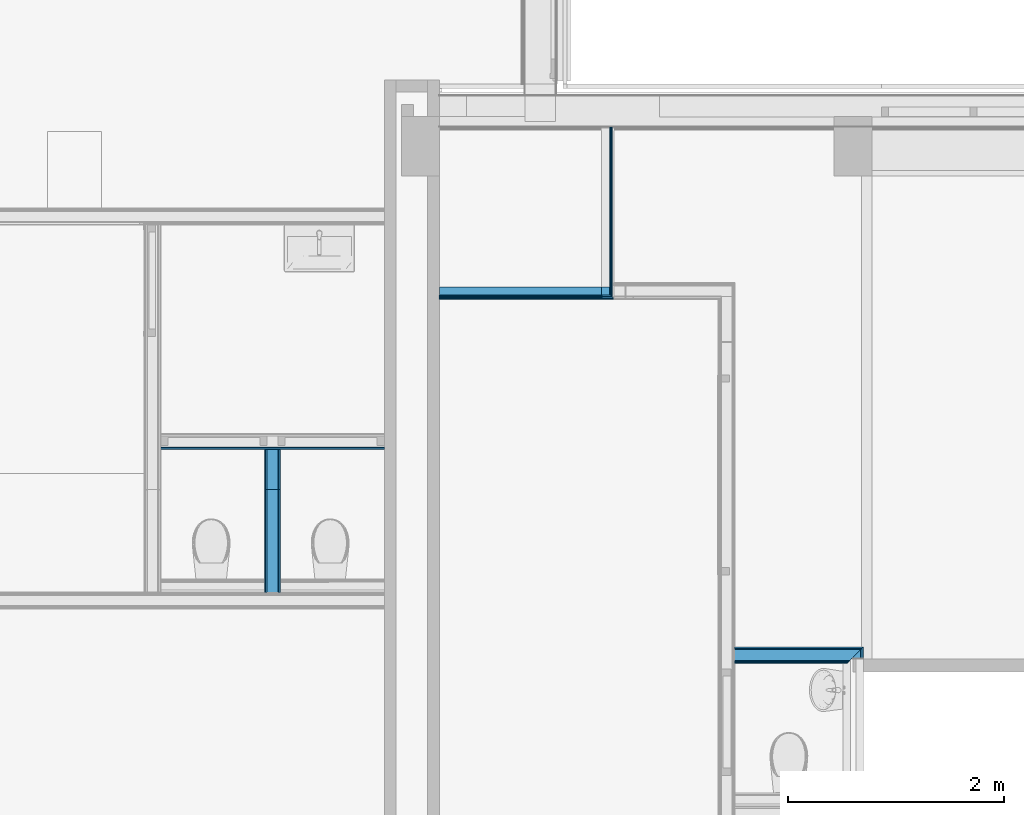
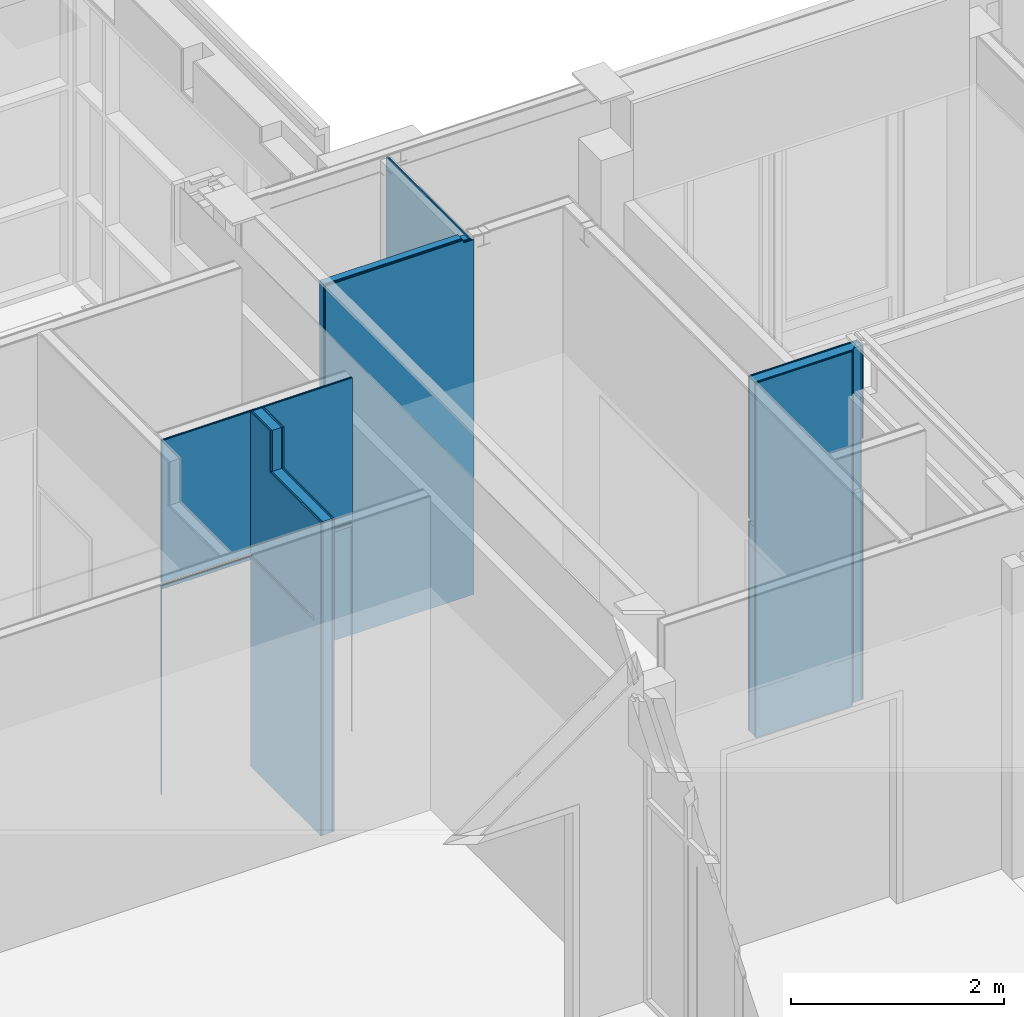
# One storey, part 50 of 109: 21 building element parts, 2 openings, 6 elements without a shape of their own.
"""IFC2X3 building model written with IfcOpenShell, lengths in millimetres."""

from ifc_helpers import new_model, entity, si_unit, converted_unit, derived_unit, money_unit, direction, frame, origin_with_axes, place, context, subcontext, project, spatial, faceted_brep, material, type_object, element, aggregate, save


model = new_model("IFC2X3")

# Units and contexts
model_context = context("Model", 3, precision=0.01, world=origin_with_axes(), true_north=direction((0.0, 1.0)))
body_context = subcontext(model_context, "Body", "Model", "MODEL_VIEW")
ifc_project = project(units=[si_unit("LENGTHUNIT", "METRE", prefix="MILLI"), si_unit("AREAUNIT", "SQUARE_METRE"), si_unit("VOLUMEUNIT", "CUBIC_METRE"), converted_unit("PLANEANGLEUNIT", "DEGREE", entity("IfcPlaneAngleMeasure", 0.0174532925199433), si_unit("PLANEANGLEUNIT", "RADIAN"), dimensions=[0, 0, 0, 0, 0, 0, 0]), money_unit("EUR"), converted_unit("TIMEUNIT", "Year", entity("IfcTimeMeasure", 31557600.0), si_unit("TIMEUNIT", "SECOND"), dimensions=[0, 0, 1, 0, 0, 0, 0]), si_unit("MASSUNIT", "GRAM", prefix="KILO"), si_unit("THERMODYNAMICTEMPERATUREUNIT", "DEGREE_CELSIUS"), si_unit("LUMINOUSINTENSITYUNIT", "LUMEN"), si_unit("ENERGYUNIT", "JOULE", prefix="MEGA"), derived_unit("THERMALCONDUCTANCEUNIT", [(si_unit("POWERUNIT", "WATT"), 1), (si_unit("LENGTHUNIT", "METRE"), -1), (si_unit("THERMODYNAMICTEMPERATUREUNIT", "KELVIN"), -1)]), derived_unit("SPECIFICHEATCAPACITYUNIT", [(si_unit("ENERGYUNIT", "JOULE"), 1), (si_unit("MASSUNIT", "GRAM", prefix="KILO"), -1), (si_unit("THERMODYNAMICTEMPERATUREUNIT", "KELVIN"), -1)]), derived_unit("MASSDENSITYUNIT", [(si_unit("MASSUNIT", "GRAM", prefix="KILO"), 1), (si_unit("VOLUMEUNIT", "CUBIC_METRE"), -1)])], contexts=[model_context])

# Site, building, storey
site_placement = place(None, origin_with_axes())
site = spatial("IfcSite", under=ifc_project, at=site_placement, Name="<site naam>", CompositionType="ELEMENT")
building_placement = place(site_placement, origin_with_axes())
building = spatial("IfcBuilding", under=site, at=building_placement, Name="<Naam gebouw>", CompositionType="ELEMENT")
storey_placement = place(building_placement, origin_with_axes())
storey = spatial("IfcBuildingStorey", under=building, at=storey_placement, Name="00 Begane grond", CompositionType="ELEMENT", Elevation=0.0)

# Wall, building element parts
wall_type_1 = type_object("IfcWallType", Name="MS-04 GF 138 V/100.3.A 113", PredefinedType="NOTDEFINED")
wall_1_placement = place(storey_placement, frame((12175.00000000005, 18423.09602261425, 0.0), z_axis=(0.0, 0.0, 1.0), x_axis=(1.0, 0.0, 0.0)))
wall_1 = element("IfcWall", 1, at=wall_1_placement, inside=storey, type_object=wall_type_1, Name="22_Binnenwand_MS-04")
ifc_material_1 = material(Name="gipsplaat")
building_element_part_1_placement = place(wall_1_placement, origin_with_axes())
building_element_part_1 = element("IfcBuildingElementPart", 2, at=building_element_part_1_placement, material=ifc_material_1, Name="gipsplaat", context=body_context, shape_type="Brep", body=[
    faceted_brep([(1587.5, -87.49999999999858, 4070.0), (1587.5, -74.99999999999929, 4070.0), (1500.0, -74.99999999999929, 4070.0), (1500.0, -87.49999999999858, 4070.0), (1587.5, -74.99999999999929, 0.0), (1587.5, -87.49999999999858, 0.0), (0.0, -74.99999999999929, 0.0), (0.0, -74.99999999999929, 4100.0), (1500.0, -74.99999999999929, 4100.000000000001), (1500.0, -87.49999999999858, 4100.000000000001), (0.0, -87.49999999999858, 4100.0), (0.0, -87.49999999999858, 0.0)], [[[0, 1, 2, 3]], [[4, 1, 0, 5]], [[1, 4, 6, 7, 8, 2]], [[3, 2, 8, 9]], [[5, 0, 3, 9, 10, 11]], [[4, 5, 11, 6]], [[10, 7, 6, 11]], [[10, 9, 8, 7]]]),
])
ifc_material_2 = material(Name="isolatie_steenwol LSW")
building_element_part_2_placement = place(wall_1_placement, origin_with_axes())
building_element_part_2 = element("IfcBuildingElementPart", 3, at=building_element_part_2_placement, material=ifc_material_2, Name="isolatie_steenwol LSW", context=body_context, shape_type="Brep", body=[
    faceted_brep([(1574.999999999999, -74.99999999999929, 4070.0), (1574.999999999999, 0.0, 4070.0), (1500.0, 0.0, 4070.0), (1500.0, -74.99999999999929, 4070.0), (1574.999999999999, 0.0, 0.0), (1574.999999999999, -74.99999999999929, 0.0), (0.0, 0.0, 0.0), (0.0, 0.0, 4100.0), (1500.0, 0.0, 4100.000000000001), (1500.0, -74.99999999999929, 4100.000000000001), (0.0, -74.99999999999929, 4100.0), (0.0, -74.99999999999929, 0.0)], [[[0, 1, 2, 3]], [[4, 1, 0, 5]], [[1, 4, 6, 7, 8, 2]], [[3, 2, 8, 9]], [[5, 0, 3, 9, 10, 11]], [[4, 5, 11, 6]], [[10, 7, 6, 11]], [[10, 9, 8, 7]]]),
])
building_element_part_3_placement = place(wall_1_placement, origin_with_axes())
building_element_part_3 = element("IfcBuildingElementPart", 4, at=building_element_part_3_placement, material=ifc_material_1, Name="gipsplaat", context=body_context, shape_type="Brep", body=[
    faceted_brep([(1600.0, -100.0000000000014, 4070.0), (1600.0, -87.49999999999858, 4070.0), (1500.0, -87.49999999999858, 4070.0), (1500.0, -100.0000000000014, 4070.0), (1600.0, -87.49999999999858, 0.0), (1600.0, -100.0000000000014, 0.0), (0.0, -87.49999999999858, 0.0), (0.0, -87.49999999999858, 4100.0), (1500.0, -87.49999999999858, 4100.000000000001), (1500.0, -99.99999999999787, 4100.000000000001), (0.0, -100.0000000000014, 4100.0), (0.0, -100.0000000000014, 0.0)], [[[0, 1, 2, 3]], [[4, 1, 0, 5]], [[1, 4, 6, 7, 8, 2]], [[3, 2, 8, 9]], [[5, 0, 3, 9, 10, 11]], [[4, 5, 11, 6]], [[10, 7, 6, 11]], [[10, 9, 8, 7]]]),
])
building_element_part_4_placement = place(wall_1_placement, origin_with_axes())
building_element_part_4 = element("IfcBuildingElementPart", 5, at=building_element_part_4_placement, material=ifc_material_1, Name="gipsplaat", context=body_context, shape_type="Brep", body=[
    faceted_brep([(1500.0, -99.99999999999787, 4100.000000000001), (1500.0, -99.99999999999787, 4070.0), (1612.500000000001, -99.99999999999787, 4070.0), (1612.500000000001, -100.0000000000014, 0.0), (0.0, -100.0000000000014, 0.0), (0.0, -100.0000000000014, 4100.0), (1500.0, -112.5000000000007, 4100.000000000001), (1500.0, -112.5000000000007, 4070.0), (1612.500000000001, -112.5000000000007, 4070.0), (1612.500000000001, -112.5000000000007, 0.0), (0.0, -112.5000000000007, 0.0), (0.0, -112.5000000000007, 4100.0)], [[[0, 1, 2, 3, 4, 5]], [[1, 0, 6, 7]], [[8, 2, 1, 7]], [[2, 8, 9, 3]], [[3, 9, 10, 4]], [[5, 4, 10, 11]], [[6, 0, 5, 11]], [[7, 6, 11, 10, 9, 8]]]),
])
aggregate(wall_1, [building_element_part_1, building_element_part_2, building_element_part_3, building_element_part_4])

wall_2_placement = place(storey_placement, frame((13675.00000000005, 18423.09602261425, 0.0), z_axis=(0.0, 0.0, 1.0), x_axis=(0.0, 1.0, 0.0)))
wall_2 = element("IfcWall", 6, at=wall_2_placement, inside=storey, type_object=wall_type_1, Name="22_Binnenwand_MS-04")
building_element_part_5_placement = place(wall_2_placement, origin_with_axes())
building_element_part_5 = element("IfcBuildingElementPart", 7, at=building_element_part_5_placement, material=ifc_material_1, Name="gipsplaat", context=body_context, shape_type="Brep", body=[
    faceted_brep([(1476.90398538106, -87.50000000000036, 3928.999844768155), (1476.90398538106, -99.99999999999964, 3928.999844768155), (1476.90398538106, -99.99999999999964, 0.0), (1476.90398538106, -87.50000000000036, 0.0), (1381.505246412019, -99.99999999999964, 3928.999844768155), (1381.505246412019, -87.50000000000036, 3928.999844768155), (1468.505256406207, -99.99999999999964, 3938.499955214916), (1468.505256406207, -99.99999999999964, 4070.0), (-87.49999999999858, -99.99999999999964, 4070.0), (-87.49999999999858, -99.99999999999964, 0.0), (1381.505248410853, -99.99999999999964, 3938.499955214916), (-87.49999999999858, -87.50000000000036, 0.0), (-87.49999999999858, -87.50000000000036, 4070.0), (1468.505256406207, -87.50000000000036, 4070.0), (1468.505256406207, -87.50000000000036, 3938.499955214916), (1381.505248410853, -87.50000000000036, 3938.499955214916)], [[[0, 1, 2, 3]], [[4, 1, 0, 5]], [[6, 7, 8, 9, 2, 1, 4, 10]], [[11, 3, 2, 9]], [[5, 0, 3, 11, 12, 13, 14, 15]], [[10, 4, 5, 15]], [[13, 7, 6, 14]], [[7, 13, 12, 8]], [[12, 11, 9, 8]], [[6, 10, 15, 14]]]),
    faceted_brep([(1474.505256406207, -99.99999999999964, 4070.0), (1474.505256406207, -99.99999999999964, 3938.499955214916), (1476.90398538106, -99.99999999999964, 3938.499955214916), (1476.90398538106, -99.99999999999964, 4070.0), (1474.505256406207, -87.50000000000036, 4070.0), (1474.505256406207, -87.50000000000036, 3938.499955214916), (1476.90398538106, -87.50000000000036, 3938.499955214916), (1476.90398538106, -87.50000000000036, 4070.0)], [[[0, 1, 2, 3]], [[1, 0, 4, 5]], [[6, 2, 1, 5]], [[2, 6, 7, 3]], [[4, 0, 3, 7]], [[5, 4, 7, 6]]]),
])
building_element_part_6_placement = place(wall_2_placement, origin_with_axes())
building_element_part_6 = element("IfcBuildingElementPart", 8, at=building_element_part_6_placement, material=ifc_material_1, Name="gipsplaat", context=body_context, shape_type="Brep", body=[
    faceted_brep([(1476.90398538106, -74.99999999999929, 3928.999844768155), (1476.90398538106, -87.50000000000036, 3928.999844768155), (1476.90398538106, -87.50000000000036, 0.0), (1476.90398538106, -74.99999999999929, 0.0), (1381.505246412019, -87.50000000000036, 3928.999844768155), (1381.505246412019, -74.99999999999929, 3928.999844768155), (1468.505256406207, -87.50000000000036, 3938.499955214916), (1468.505256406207, -87.50000000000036, 4070.0), (-74.99999999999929, -87.50000000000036, 4070.0), (-74.99999999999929, -87.50000000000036, 0.0), (1381.505248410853, -87.50000000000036, 3938.499955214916), (-74.99999999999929, -74.99999999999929, 0.0), (-74.99999999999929, -74.99999999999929, 4070.0), (1468.505256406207, -74.99999999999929, 4070.0), (1468.505256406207, -74.99999999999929, 3938.499955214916), (1381.505248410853, -74.99999999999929, 3938.499955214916)], [[[0, 1, 2, 3]], [[4, 1, 0, 5]], [[6, 7, 8, 9, 2, 1, 4, 10]], [[11, 3, 2, 9]], [[5, 0, 3, 11, 12, 13, 14, 15]], [[10, 4, 5, 15]], [[13, 7, 6, 14]], [[7, 13, 12, 8]], [[12, 11, 9, 8]], [[6, 10, 15, 14]]]),
    faceted_brep([(1474.505256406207, -87.50000000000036, 4070.0), (1474.505256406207, -87.50000000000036, 3938.499955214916), (1476.90398538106, -87.50000000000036, 3938.499955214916), (1476.90398538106, -87.50000000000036, 4070.0), (1474.505256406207, -74.99999999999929, 4070.0), (1474.505256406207, -74.99999999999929, 3938.499955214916), (1476.90398538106, -74.99999999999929, 3938.499955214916), (1476.90398538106, -74.99999999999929, 4070.0)], [[[0, 1, 2, 3]], [[1, 0, 4, 5]], [[6, 2, 1, 5]], [[2, 6, 7, 3]], [[4, 0, 3, 7]], [[5, 4, 7, 6]]]),
])
aggregate(wall_2, [building_element_part_5, building_element_part_6])

wall_type_2 = type_object("IfcWallType", Name="MS-01 GF 150 ECO DGS/2.100.2.A 150", PredefinedType="NOTDEFINED")
wall_3_placement = place(storey_placement, frame((10630.98072423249, 15599.98725537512, 0.0), z_axis=(0.0, 0.0, 1.0), x_axis=(0.0, 1.0, 0.0)))
wall_3 = element("IfcWall", 9, at=wall_3_placement, inside=storey, type_object=wall_type_2, Name="22_Binnenwand_MS-01")
building_element_part_7_placement = place(wall_3_placement, origin_with_axes())
building_element_part_7 = element("IfcBuildingElementPart", 10, at=building_element_part_7_placement, material=ifc_material_1, Name="gipsplaat", context=body_context, shape_type="Brep", body=[
    faceted_brep([(1320.226716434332, 75.00000000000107, 4070.0), (950.0127446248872, 75.00000000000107, 4070.0), (950.0127446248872, 62.5, 4070.0), (1320.224304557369, 62.5, 4070.0), (0.0, 75.00000000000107, 3600.0), (950.0127446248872, 74.99999999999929, 3600.0), (1320.226716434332, 75.00000000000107, 2440.0), (119.2350326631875, 74.99999999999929, 2440.0), (119.2350326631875, 74.99999999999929, 2400.0), (1320.226716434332, 75.00000000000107, 2400.0), (1320.226716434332, 74.99999999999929, 3.000000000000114), (0.01273099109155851, 74.99999999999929, 3.000000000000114), (0.01273099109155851, 74.99999999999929, 0.0), (0.0, 74.99999999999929, 0.0), (950.0127446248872, 62.5, 3600.0), (0.0, 62.5, 3600.0), (0.0, 62.5, 0.0), (0.01273099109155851, 62.5, 0.0), (0.01273099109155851, 62.5, 3.000000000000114), (1320.224304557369, 62.5, 3.000000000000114), (1320.224304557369, 62.5, 2400.0), (119.2350326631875, 62.5, 2400.0), (119.2350326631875, 62.5, 2440.0), (1320.224304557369, 62.5, 2440.0)], [[[0, 1, 2, 3]], [[4, 5, 1, 0, 6, 7, 8, 9, 10, 11, 12, 13]], [[5, 14, 2, 1]], [[2, 14, 15, 16, 17, 18, 19, 20, 21, 22, 23, 3]], [[0, 3, 23, 6]], [[4, 15, 14, 5]], [[22, 7, 6, 23]], [[8, 7, 22, 21]], [[9, 8, 21, 20]], [[19, 10, 9, 20]], [[18, 11, 10, 19]], [[12, 11, 18, 17]], [[16, 13, 12, 17]], [[16, 15, 4, 13]]]),
])
building_element_part_8_placement = place(wall_3_placement, origin_with_axes())
building_element_part_8 = element("IfcBuildingElementPart", 11, at=building_element_part_8_placement, material=ifc_material_1, Name="gipsplaat", context=body_context, shape_type="Brep", body=[
    faceted_brep([(1320.202597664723, -49.99999999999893, 4070.0), (950.0127446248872, -49.99999999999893, 4070.0), (950.0127446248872, -62.5, 4070.0), (1320.20018578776, -62.5, 4070.0), (0.0, -49.99999999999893, 3600.0), (950.0127446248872, -50.00000000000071, 3600.0), (1320.202597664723, -49.99999999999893, 2440.0), (119.2350326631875, -50.00000000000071, 2440.0), (119.2350326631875, -50.00000000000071, 2400.0), (1320.202597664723, -49.99999999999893, 2400.0), (1320.202597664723, -50.00000000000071, 3.000000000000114), (0.01273099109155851, -50.00000000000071, 3.000000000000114), (0.01273099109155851, -50.00000000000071, 0.0), (0.0, -50.00000000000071, 0.0), (950.0127446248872, -62.5, 3600.0), (0.0, -62.5, 3600.0), (0.0, -62.5, 0.0), (0.01273099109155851, -62.5, 0.0), (0.01273099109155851, -62.5, 3.000000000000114), (1320.20018578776, -62.5, 3.000000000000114), (1320.20018578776, -62.5, 2400.0), (119.2350326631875, -62.5, 2400.0), (119.2350326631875, -62.5, 2440.0), (1320.20018578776, -62.5, 2440.0)], [[[0, 1, 2, 3]], [[4, 5, 1, 0, 6, 7, 8, 9, 10, 11, 12, 13]], [[5, 14, 2, 1]], [[2, 14, 15, 16, 17, 18, 19, 20, 21, 22, 23, 3]], [[0, 3, 23, 6]], [[4, 15, 14, 5]], [[22, 7, 6, 23]], [[8, 7, 22, 21]], [[9, 8, 21, 20]], [[19, 10, 9, 20]], [[18, 11, 10, 19]], [[12, 11, 18, 17]], [[16, 13, 12, 17]], [[16, 15, 4, 13]]]),
])
building_element_part_9_placement = place(wall_3_placement, origin_with_axes())
building_element_part_9 = element("IfcBuildingElementPart", 12, at=building_element_part_9_placement, material=ifc_material_1, Name="gipsplaat", context=body_context, shape_type="Brep", body=[
    faceted_brep([(1320.224304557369, 62.5, 4070.0), (950.0127446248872, 62.5, 4070.0), (950.0127446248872, 50.00000000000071, 4070.0), (1320.22189268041, 50.00000000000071, 4070.0), (0.0, 62.5, 3600.0), (950.0127446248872, 62.5, 3600.0), (1320.224304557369, 62.5, 2440.0), (119.2350326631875, 62.5, 2440.0), (119.2350326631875, 62.5, 2400.0), (1320.224304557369, 62.5, 2400.0), (1320.224304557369, 62.5, 3.000000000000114), (0.01273099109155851, 62.5, 3.000000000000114), (0.01273099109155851, 62.5, 0.0), (0.0, 62.5, 0.0), (950.0127446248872, 50.00000000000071, 3600.0), (0.0, 50.00000000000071, 3600.0), (0.0, 50.00000000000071, 0.0), (0.01273099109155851, 50.00000000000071, 0.0), (0.01273099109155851, 50.00000000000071, 3.000000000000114), (1320.22189268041, 50.00000000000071, 3.000000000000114), (1320.22189268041, 50.00000000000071, 2400.0), (119.2350326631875, 50.00000000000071, 2400.0), (119.2350326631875, 50.00000000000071, 2440.0), (1320.22189268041, 50.00000000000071, 2440.0)], [[[0, 1, 2, 3]], [[4, 5, 1, 0, 6, 7, 8, 9, 10, 11, 12, 13]], [[5, 14, 2, 1]], [[2, 14, 15, 16, 17, 18, 19, 20, 21, 22, 23, 3]], [[0, 3, 23, 6]], [[4, 15, 14, 5]], [[22, 7, 6, 23]], [[8, 7, 22, 21]], [[9, 8, 21, 20]], [[19, 10, 9, 20]], [[18, 11, 10, 19]], [[12, 11, 18, 17]], [[16, 13, 12, 17]], [[16, 15, 4, 13]]]),
])
building_element_part_10_placement = place(wall_3_placement, origin_with_axes())
building_element_part_10 = element("IfcBuildingElementPart", 13, at=building_element_part_10_placement, material=ifc_material_2, Name="isolatie_steenwol LSW", context=body_context, shape_type="Brep", body=[
    faceted_brep([(1320.22189268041, 50.00000000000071, 4070.0), (950.0127446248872, 50.00000000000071, 4070.0), (950.0127446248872, -49.99999999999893, 4070.0), (1320.202597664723, -49.99999999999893, 4070.0), (0.0, 50.00000000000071, 3600.0), (950.0127446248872, 50.00000000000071, 3600.0), (1320.22189268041, 50.00000000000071, 2440.0), (119.2350326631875, 50.00000000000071, 2440.0), (119.2350326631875, 50.00000000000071, 2400.0), (1320.22189268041, 50.00000000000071, 2400.0), (1320.22189268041, 50.00000000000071, 3.000000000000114), (0.01273099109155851, 50.00000000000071, 3.000000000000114), (0.01273099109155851, 50.00000000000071, 0.0), (0.0, 50.00000000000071, 0.0), (950.0127446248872, -49.99999999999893, 3600.0), (0.0, -49.99999999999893, 3600.0), (0.0, -50.00000000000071, 0.0), (0.01273099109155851, -50.00000000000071, 0.0), (0.01273099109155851, -49.99999999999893, 3.000000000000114), (1320.202597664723, -50.00000000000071, 3.000000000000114), (1320.202597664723, -49.99999999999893, 2400.0), (119.2350326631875, -49.99999999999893, 2400.0), (119.2350326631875, -49.99999999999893, 2440.0), (1320.202597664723, -49.99999999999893, 2440.0)], [[[0, 1, 2, 3]], [[4, 5, 1, 0, 6, 7, 8, 9, 10, 11, 12, 13]], [[5, 14, 2, 1]], [[2, 14, 15, 16, 17, 18, 19, 20, 21, 22, 23, 3]], [[0, 3, 23, 6]], [[4, 15, 14, 5]], [[22, 7, 6, 23]], [[8, 7, 22, 21]], [[9, 8, 21, 20]], [[19, 10, 9, 20]], [[18, 11, 10, 19]], [[12, 11, 18, 17]], [[16, 13, 12, 17]], [[16, 15, 4, 13]]]),
])
building_element_part_11_placement = place(wall_3_placement, origin_with_axes())
building_element_part_11 = element("IfcBuildingElementPart", 14, at=building_element_part_11_placement, material=ifc_material_1, Name="gipsplaat", context=body_context, shape_type="Brep", body=[
    faceted_brep([(1320.20018578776, -62.5, 4070.0), (950.0127446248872, -62.5, 4070.0), (950.0127446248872, -74.99999999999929, 4070.0), (1320.197773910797, -74.99999999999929, 4070.0), (0.0, -62.5, 3600.0), (950.0127446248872, -62.5, 3600.0), (1320.20018578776, -62.5, 2440.0), (119.2350326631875, -62.5, 2440.0), (119.2350326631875, -62.5, 2400.0), (1320.20018578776, -62.5, 2400.0), (1320.20018578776, -62.5, 3.000000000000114), (0.01273099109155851, -62.5, 3.000000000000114), (0.01273099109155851, -62.5, 0.0), (0.0, -62.5, 0.0), (950.0127446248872, -74.99999999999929, 3600.0), (0.0, -74.99999999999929, 3600.0), (0.0, -74.99999999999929, 0.0), (0.01273099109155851, -74.99999999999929, 0.0), (0.01273099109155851, -74.99999999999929, 3.000000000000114), (1320.197773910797, -74.99999999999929, 3.000000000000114), (1320.197773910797, -74.99999999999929, 2400.0), (119.2350326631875, -74.99999999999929, 2400.0), (119.2350326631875, -74.99999999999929, 2440.0), (1320.197773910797, -74.99999999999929, 2440.0)], [[[0, 1, 2, 3]], [[4, 5, 1, 0, 6, 7, 8, 9, 10, 11, 12, 13]], [[5, 14, 2, 1]], [[2, 14, 15, 16, 17, 18, 19, 20, 21, 22, 23, 3]], [[0, 3, 23, 6]], [[4, 15, 14, 5]], [[22, 7, 6, 23]], [[8, 7, 22, 21]], [[9, 8, 21, 20]], [[19, 10, 9, 20]], [[18, 11, 10, 19]], [[12, 11, 18, 17]], [[16, 13, 12, 17]], [[16, 15, 4, 13]]]),
])
aggregate(wall_3, [building_element_part_7, building_element_part_8, building_element_part_9, building_element_part_10, building_element_part_11])

# Wall, openings, building element parts
wall_4_placement = place(storey_placement, frame((9596.980742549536, 16920.39901100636, 0.0), z_axis=(0.0, 0.0, 1.0), x_axis=(0.999999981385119, -0.0001929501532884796, 0.0)))
wall_4 = element("IfcWall", 15, at=wall_4_placement, inside=storey, type_object=wall_type_2, Name="22_Binnenwand_MS-01")
opening_1_placement = place(wall_4_placement, frame((1576.014472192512, 0.0, 0.0), z_axis=(0.0, 0.0, 1.0), x_axis=(1.0, 0.0, 0.0)))
element("IfcOpeningElement", 16, at=opening_1_placement, cuts=wall_4, Name="22_BI-A-03 sp_305", context=body_context, shape_type="Brep", body=[
    faceted_brep([(-491.9999999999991, -1.399024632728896, 2367.0), (-491.9999999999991, -1.399024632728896, 0.0), (491.9999999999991, -1.399024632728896, 0.0), (491.9999999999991, -1.399024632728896, 2367.0), (-491.9999999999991, 151.399024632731, 2367.0), (-491.9999999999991, 151.399024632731, 0.0), (491.9999999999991, 151.399024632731, 0.0), (491.9999999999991, 151.399024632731, 2367.0)], [[[0, 1, 2, 3]], [[4, 5, 1, 0]], [[5, 6, 2, 1]], [[6, 7, 3, 2]], [[7, 4, 0, 3]], [[6, 5, 4, 7]]]),
])
opening_2_placement = place(wall_4_placement, frame((492.0000000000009, 0.0, 0.0), z_axis=(0.0, 0.0, 1.0), x_axis=(1.0, 0.0, 0.0)))
element("IfcOpeningElement", 17, at=opening_2_placement, cuts=wall_4, Name="22_BI-A-03_305", context=body_context, shape_type="Brep", body=[
    faceted_brep([(-491.9999999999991, -1.399024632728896, 2367.0), (-491.9999999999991, -1.399024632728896, 0.0), (492.0000000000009, -1.399024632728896, 0.0), (492.0000000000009, -1.399024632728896, 2367.0), (-491.9999999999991, 151.399024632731, 2367.0), (-491.9999999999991, 151.399024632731, 0.0), (492.0000000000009, 151.399024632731, 0.0), (492.0000000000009, 151.399024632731, 2367.0)], [[[0, 1, 2, 3]], [[4, 5, 1, 0]], [[5, 6, 2, 1]], [[6, 7, 3, 2]], [[7, 4, 0, 3]], [[6, 5, 4, 7]]]),
])
building_element_part_12_placement = place(wall_4_placement, origin_with_axes())
building_element_part_12 = element("IfcBuildingElementPart", 18, at=building_element_part_12_placement, material=ifc_material_1, Name="gipsplaat", context=body_context, shape_type="Brep", body=[
    faceted_brep([(-0.002411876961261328, 12.49999999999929, 2440.0), (-0.002411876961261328, 12.49999999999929, 4070.0), (-0.004823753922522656, 24.99999999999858, 4070.0), (-0.004823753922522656, 24.99999999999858, 2440.0), (2068.016884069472, 12.49999999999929, 2440.0), (2068.019295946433, 12.49999999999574, 4070.0), (2068.019295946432, 24.99999999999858, 4070.0), (2068.014472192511, 24.99999999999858, 2440.0)], [[[0, 1, 2, 3]], [[1, 0, 4, 5]], [[2, 1, 5, 6]], [[3, 2, 6, 7]], [[0, 3, 7, 4]], [[4, 7, 6, 5]]]),
    faceted_brep([(-0.002411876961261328, 12.49999999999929, 2400.0), (-0.004823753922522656, 24.99999999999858, 2400.0), (-0.004823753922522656, 24.99999999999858, 3.000000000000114), (-0.002411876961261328, 12.49999999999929, 3.000000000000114), (2068.016884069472, 12.49999999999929, 2400.0), (2068.014472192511, 24.99999999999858, 2400.0), (2068.014472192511, 24.99999999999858, 3.000000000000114), (2068.016884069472, 12.49999999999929, 3.000000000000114)], [[[0, 1, 2, 3]], [[1, 0, 4, 5]], [[2, 1, 5, 6]], [[3, 2, 6, 7]], [[4, 0, 3, 7]], [[5, 4, 7, 6]]]),
])
building_element_part_13_placement = place(wall_4_placement, origin_with_axes())
building_element_part_13 = element("IfcBuildingElementPart", 19, at=building_element_part_13_placement, material=ifc_material_1, Name="gipsplaat", context=body_context, shape_type="Brep", body=[
    faceted_brep([(0.0, 0.0, 2440.0), (0.0, 0.0, 4070.0), (-0.002411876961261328, 12.49999999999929, 4070.0), (-0.002411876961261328, 12.49999999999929, 2440.0), (2068.019295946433, 0.0, 2440.0), (2068.019295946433, 0.0, 4070.0), (2068.019295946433, 12.49999999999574, 4070.0), (2068.016884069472, 12.49999999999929, 2440.0)], [[[0, 1, 2, 3]], [[1, 0, 4, 5]], [[2, 1, 5, 6]], [[3, 2, 6, 7]], [[0, 3, 7, 4]], [[4, 7, 6, 5]]]),
    faceted_brep([(0.0, 0.0, 2400.0), (-0.002411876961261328, 12.49999999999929, 2400.0), (-0.002411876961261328, 12.49999999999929, 3.000000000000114), (0.0, 0.0, 3.000000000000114), (2068.019295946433, 0.0, 2400.0), (2068.016884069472, 12.49999999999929, 2400.0), (2068.016884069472, 12.49999999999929, 3.000000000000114), (2068.019295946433, 0.0, 3.000000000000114)], [[[0, 1, 2, 3]], [[1, 0, 4, 5]], [[2, 1, 5, 6]], [[3, 2, 6, 7]], [[3, 7, 4, 0]], [[5, 4, 7, 6]]]),
])
aggregate(wall_4, [building_element_part_12, building_element_part_13])

# Wall, building element parts
wall_5_placement = place(storey_placement, frame((14754.95500626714, 15094.52436774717, 0.0), z_axis=(0.0, 0.0, 1.0), x_axis=(1.0, 0.0, 0.0)))
wall_5 = element("IfcWall", 20, at=wall_5_placement, inside=storey, type_object=wall_type_2, Name="22_Binnenwand_MS-01")
building_element_part_14_placement = place(wall_5_placement, origin_with_axes())
building_element_part_14 = element("IfcBuildingElementPart", 21, at=building_element_part_14_placement, material=ifc_material_1, Name="gipsplaat", context=body_context, shape_type="Brep", body=[
    faceted_brep([(150.0000169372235, -3.130169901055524e-06, 2400.0), (1320.044993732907, -3.130169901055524e-06, 2400.0), (1340.051365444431, -1.803042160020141e-05, 2400.0), (1340.051365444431, -1.803042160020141e-05, 3.000000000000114), (150.0000426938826, -3.130169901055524e-06, 3.000000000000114), (1320.044993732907, -12.49999999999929, 2400.0), (150.0000169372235, -12.49999999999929, 2400.0), (1327.550650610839, -12.49999999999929, 2400.0), (1327.550650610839, -12.49999999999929, 3.000000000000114), (150.0000426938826, -12.49999999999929, 3.000000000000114)], [[[0, 1, 2, 3, 4]], [[5, 1, 0, 6]], [[1, 5, 7, 2]], [[2, 7, 8, 3]], [[4, 3, 8, 9]], [[6, 0, 4, 9]], [[5, 6, 9, 8, 7]]]),
    faceted_brep([(1320.044993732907, -12.49999999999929, 2440.0), (1320.044993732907, -3.130169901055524e-06, 2440.0), (1320.044993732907, -3.130169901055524e-06, 3000.0), (1320.044993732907, -12.49999999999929, 3000.0), (150.0000169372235, -3.130169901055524e-06, 2440.0), (150.0000169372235, -12.49999999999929, 2440.0), (150.0000000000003, -3.130169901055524e-06, 4070.0), (1340.051365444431, -1.803042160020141e-05, 4070.0), (1340.051365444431, -1.803042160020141e-05, 3000.0), (1327.550650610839, -12.49999999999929, 3000.0), (1327.550650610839, -12.49999999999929, 4070.0), (150.0000000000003, -12.49999999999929, 4070.0)], [[[0, 1, 2, 3]], [[4, 1, 0, 5]], [[1, 4, 6, 7, 8, 2]], [[2, 8, 9, 3]], [[5, 0, 3, 9, 10, 11]], [[4, 5, 11, 6]], [[11, 10, 7, 6]], [[9, 8, 7, 10]]]),
])
building_element_part_15_placement = place(wall_5_placement, origin_with_axes())
building_element_part_15 = element("IfcBuildingElementPart", 22, at=building_element_part_15_placement, material=ifc_material_2, Name="isolatie_steenwol LSW", context=body_context, shape_type="Brep", body=[
    faceted_brep([(1231.065150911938, -108.9798431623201, 2400.0), (1231.065150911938, -108.9798431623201, 2440.0), (1315.049912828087, -25.00000491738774, 2440.0), (1315.049912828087, -25.00000491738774, 4070.0), (1215.044041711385, -125.0000131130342, 4070.0), (1215.044041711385, -125.0000131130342, 0.0), (1231.056133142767, -108.9888604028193, 0.0), (1231.056133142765, -108.9888604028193, 3.000000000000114), (1315.049912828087, -25.00000491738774, 3.000000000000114), (1315.049912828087, -25.00000491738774, 2400.0), (150.0000169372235, -108.928535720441, 2400.0), (150.0000169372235, -108.928535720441, 2440.0), (150.0000169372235, -25.00000086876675, 2440.0), (150.0000000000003, -25.00000086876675, 4070.0), (150.0000000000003, -125.0000024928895, 4070.0), (150.0000000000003, -125.0000024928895, 0.0), (150.0000426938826, -108.9888604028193, 0.0), (150.0000426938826, -108.9888604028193, 3.000000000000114), (150.0000426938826, -25.00000086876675, 3.000000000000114), (150.0000169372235, -25.00000086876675, 2400.0)], [[[0, 1, 2, 3, 4, 5, 6, 7, 8, 9]], [[1, 0, 10, 11]], [[12, 2, 1, 11]], [[2, 12, 13, 3]], [[14, 4, 3, 13]], [[15, 5, 4, 14]], [[16, 6, 5, 15]], [[7, 6, 16, 17]], [[18, 8, 7, 17]], [[19, 9, 8, 18]], [[0, 9, 19, 10]], [[10, 19, 18, 17, 16, 15, 14, 13, 12, 11]]]),
])
building_element_part_16_placement = place(wall_5_placement, origin_with_axes())
building_element_part_16 = element("IfcBuildingElementPart", 23, at=building_element_part_16_placement, material=ifc_material_1, Name="gipsplaat", context=body_context, shape_type="Brep", body=[
    faceted_brep([(150.0000169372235, -12.49999999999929, 2400.0), (1327.550650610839, -12.49999999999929, 2400.0), (1327.550650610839, -12.49999999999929, 3.000000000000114), (150.0000426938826, -12.49999999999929, 3.000000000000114), (150.0000169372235, -25.00000086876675, 2400.0), (1315.049912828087, -25.00000491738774, 2400.0), (1315.049912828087, -25.00000491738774, 3.000000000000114), (150.0000426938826, -25.00000086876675, 3.000000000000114)], [[[0, 1, 2, 3]], [[1, 0, 4, 5]], [[5, 6, 2, 1]], [[3, 2, 6, 7]], [[4, 0, 3, 7]], [[5, 4, 7, 6]]]),
    faceted_brep([(1320.044993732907, -20.00521685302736, 2440.0), (1320.044993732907, -12.49999999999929, 2440.0), (1320.044993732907, -12.49999999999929, 3000.0), (1320.044993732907, -20.00521685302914, 3000.0), (150.0000169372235, -12.49999999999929, 2440.0), (1315.049912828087, -25.00000491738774, 2440.0), (150.0000169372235, -25.00000086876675, 2440.0), (150.0000000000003, -12.49999999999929, 4070.0), (1327.550650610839, -12.49999999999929, 4070.0), (1327.550650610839, -12.49999999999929, 3000.0), (1315.049912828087, -25.00000491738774, 4070.0), (150.0000000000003, -25.00000086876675, 4070.0)], [[[0, 1, 2, 3]], [[4, 1, 0, 5, 6]], [[1, 4, 7, 8, 9, 2]], [[2, 9, 3]], [[5, 0, 3, 9, 8, 10]], [[6, 5, 10, 11]], [[4, 6, 11, 7]], [[11, 10, 8, 7]]]),
])
building_element_part_17_placement = place(wall_5_placement, origin_with_axes())
building_element_part_17 = element("IfcBuildingElementPart", 24, at=building_element_part_17_placement, material=ifc_material_1, Name="gipsplaat", context=body_context, shape_type="Brep", body=[
    faceted_brep([(150.0000000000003, -137.4999999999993, 4070.0), (1202.543321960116, -137.4999999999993, 4070.0), (1215.044041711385, -125.0000131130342, 4070.0), (150.0000000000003, -125.0000024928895, 4070.0), (150.0000000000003, -137.4999999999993, 0.0), (1202.543321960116, -137.4999999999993, 0.0), (1215.044041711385, -125.0000131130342, 0.0), (150.0000000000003, -125.0000024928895, 0.0)], [[[0, 1, 2, 3]], [[4, 5, 1, 0]], [[5, 6, 2, 1]], [[3, 2, 6, 7]], [[0, 3, 7, 4]], [[7, 6, 5, 4]]]),
])
building_element_part_18_placement = place(wall_5_placement, origin_with_axes())
building_element_part_18 = element("IfcBuildingElementPart", 25, at=building_element_part_18_placement, material=ifc_material_1, Name="gipsplaat", context=body_context, shape_type="Brep", body=[
    faceted_brep([(1148.829046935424, -149.5070542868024, 0.0), (690.4028209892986, -149.999999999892, 0.0), (150.0000000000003, -150.0000000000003, 0.0), (150.0000000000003, -137.4999999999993, 0.0), (1202.543321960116, -137.4999999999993, 0.0), (1190.042589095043, -150.0000000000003, 0.0), (1148.829255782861, -150.0000000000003, 0.0), (1148.829046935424, -149.5070542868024, 3.000000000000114), (690.4028208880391, -150.0000000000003, 3.000000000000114), (1148.829255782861, -150.0000000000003, 3.000000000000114), (1190.042589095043, -150.0000000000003, 4070.0), (150.0000000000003, -150.0000000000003, 4070.0), (150.0000000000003, -137.4999999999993, 4070.0), (1202.543321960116, -137.4999999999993, 4070.0)], [[[0, 1, 2, 3, 4, 5, 6]], [[1, 0, 7, 8]], [[9, 6, 5, 10, 11, 2, 1, 8]], [[11, 12, 3, 2]], [[12, 13, 4, 3]], [[5, 4, 13, 10]], [[0, 6, 9, 7]], [[9, 8, 7]], [[11, 10, 13, 12]]]),
])
aggregate(wall_5, [building_element_part_14, building_element_part_15, building_element_part_16, building_element_part_17, building_element_part_18])

wall_6_placement = place(storey_placement, frame((16095.00638974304, 15094.52436774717, 0.0), z_axis=(0.0, 0.0, 1.0), x_axis=(-5.862748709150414e-05, -0.999999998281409, 0.0)))
wall_6 = element("IfcWall", 26, at=wall_6_placement, inside=storey, type_object=wall_type_2, Name="22_Binnenwand_MS-01")
building_element_part_19_placement = place(wall_6_placement, origin_with_axes())
building_element_part_19 = element("IfcBuildingElementPart", 27, at=building_element_part_19_placement, material=ifc_material_1, Name="gipsplaat", context=body_context, shape_type="Brep", body=[
    faceted_brep([(25.00147064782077, -25.00000491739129, 3.000000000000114), (108.9888605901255, -25.00000000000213, 3.000000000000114), (108.985294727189, -25.00000000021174, 2400.0), (25.00147064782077, -25.00000491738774, 2400.0), (12.50073286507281, -12.50000000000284, 3.000000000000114), (108.9888605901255, -12.50000000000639, 3.000000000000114), (108.9888605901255, -12.50000000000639, 2400.0), (12.50073286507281, -12.50000000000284, 2400.0)], [[[0, 1, 2, 3]], [[1, 0, 4, 5]], [[2, 1, 5, 6]], [[3, 2, 6, 7]], [[0, 3, 7, 4]], [[6, 5, 4, 7]]]),
    faceted_brep([(108.985294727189, -25.00000000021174, 2440.0), (108.9888605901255, -25.00000000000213, 4070.0), (25.00147064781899, -25.00000491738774, 4070.0), (25.00147064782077, -25.00000491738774, 2440.0), (108.9852388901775, -20.00000024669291, 2440.0), (108.990026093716, -19.99999996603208, 3000.0), (108.9888605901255, -12.50000000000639, 3000.0), (108.9888605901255, -12.50000000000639, 4070.0), (12.50073286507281, -12.50000000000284, 4070.0), (12.50073286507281, -12.50000000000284, 3000.0), (20.00638974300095, -20.00521685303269, 3000.0), (20.00638974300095, -20.00521685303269, 2440.0)], [[[0, 1, 2, 3]], [[1, 0, 4, 5, 6, 7]], [[2, 1, 7, 8]], [[3, 2, 8, 9, 10, 11]], [[0, 3, 11, 4]], [[5, 4, 11, 10]], [[6, 5, 10, 9]], [[7, 6, 9, 8]]]),
])
building_element_part_20_placement = place(wall_6_placement, origin_with_axes())
building_element_part_20 = element("IfcBuildingElementPart", 28, at=building_element_part_20_placement, material=ifc_material_1, Name="gipsplaat", context=body_context, shape_type="Brep", body=[
    faceted_brep([(12.50073286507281, -12.50000000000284, 3.000000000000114), (108.9888605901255, -12.50000000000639, 3.000000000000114), (108.9888605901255, -12.50000000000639, 2400.0), (12.50073286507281, -12.50000000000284, 2400.0), (1.803147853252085e-05, -1.803042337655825e-05, 2.99999999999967), (108.9888605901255, 0.0, 2.99999999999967), (108.9888535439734, 0.0, 2400.0), (1.803147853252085e-05, -1.803042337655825e-05, 2400.0)], [[[0, 1, 2, 3]], [[1, 0, 4, 5]], [[2, 1, 5, 6]], [[3, 2, 6, 7]], [[0, 3, 7, 4]], [[6, 5, 4, 7]]]),
    faceted_brep([(108.9888605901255, -12.50000000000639, 3000.0), (108.9888605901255, -12.50000000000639, 4070.0), (12.50073286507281, -12.50000000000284, 4070.0), (12.50073286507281, -12.50000000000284, 3000.0), (108.9888535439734, 0.0, 3000.0), (108.9888605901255, 0.0, 4070.0), (1.803147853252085e-05, -1.803042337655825e-05, 4070.0), (1.803147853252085e-05, -1.803042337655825e-05, 3000.0)], [[[0, 1, 2, 3]], [[0, 4, 5, 1]], [[2, 1, 5, 6]], [[3, 2, 6, 7]], [[4, 0, 3, 7]], [[5, 4, 7, 6]]]),
])
building_element_part_21_placement = place(wall_6_placement, origin_with_axes())
building_element_part_21 = element("IfcBuildingElementPart", 29, at=building_element_part_21_placement, material=ifc_material_2, Name="isolatie_steenwol LSW", context=body_context, shape_type="Brep", body=[
    faceted_brep([(108.9862325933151, -108.9824709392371, 2400.0), (25.00147064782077, -25.00000491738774, 2400.0), (25.00147064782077, -25.00000491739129, 3.000000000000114), (108.9952499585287, -108.9824706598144, 3.000000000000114), (108.985294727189, -25.00000001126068, 2400.0), (108.9903262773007, -24.99999991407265, 3.000000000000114)], [[[0, 1, 2, 3]], [[4, 1, 0]], [[1, 4, 5, 2]], [[2, 5, 3]], [[4, 0, 3, 5]]]),
    faceted_brep([(108.985294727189, -25.00000001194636, 2440.0), (25.00147064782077, -25.00000491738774, 2440.0), (25.00147064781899, -25.00000491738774, 4070.0), (108.9888605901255, -25.00000000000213, 4070.0), (108.9870891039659, -25.00000491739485, 3040.0), (108.9892462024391, -24.99999997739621, 3000.0), (108.9862325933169, -108.9824709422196, 2440.0), (108.9888605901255, -108.9824710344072, 4070.0), (108.990541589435, -95.01488161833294, 3000.0), (108.9904787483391, -95.0148816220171, 3040.0)], [[[0, 1, 2, 3, 4, 5]], [[6, 1, 0]], [[1, 6, 7, 2]], [[7, 3, 2]], [[6, 0, 5, 8, 9, 4, 3, 7]], [[8, 5, 4, 9]]]),
])
aggregate(wall_6, [building_element_part_19, building_element_part_20, building_element_part_21])

save(model, "model.ifc")
